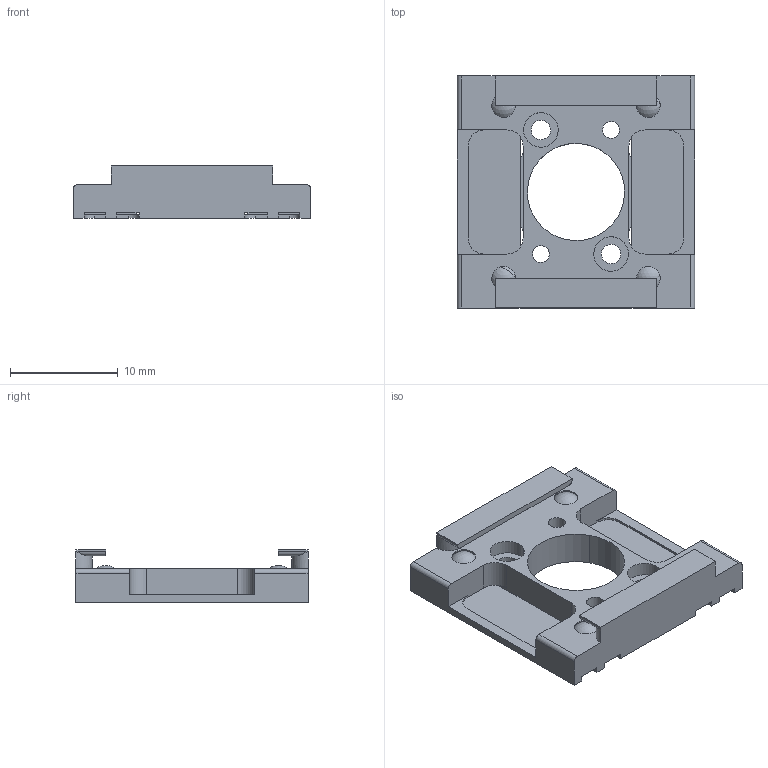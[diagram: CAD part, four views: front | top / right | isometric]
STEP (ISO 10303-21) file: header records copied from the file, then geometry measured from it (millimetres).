
FILE_DESCRIPTION(('CATIA V5 STEP Exchange'),'2;1');
FILE_NAME('W:\KONSTRUKTION\PRODUCTS\REC\RECOM\RECOMRA\RECOMRA_20201223.pdf.stp','2020-12-23T10:27:07+00:00',('none'),('none'),'CATIA Version 5 Release 21 GA (IN-10)','CATIA V5 STEP AP203','none');
FILE_SCHEMA(('CONFIG_CONTROL_DESIGN'));
Length unit declared in the file: millimetre
Products named in the file (1): RECOMRA
Bounding box: 22 x 21.5 x 4.85 mm (x, y, z)
Volume: 897.7 mm3; surface area: 1756.3 mm2
Topology: 1 solids, 1 shells, 150 faces, 434 edges, 276 vertices
Faces by surface type: plane 76, cylinder 58, sphere 8, cone 8
Entity records: 4580 total; most frequent: CARTESIAN_POINT 909, ORIENTED_EDGE 836, DIRECTION 588, EDGE_CURVE 418, VECTOR 278, LINE 278, VERTEX_POINT 276, AXIS2_PLACEMENT_3D 220
